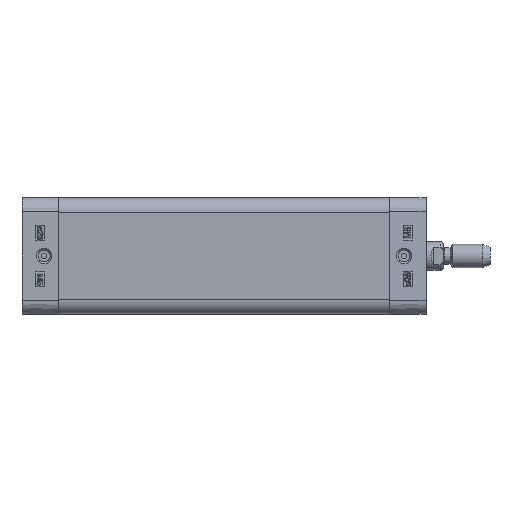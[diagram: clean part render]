
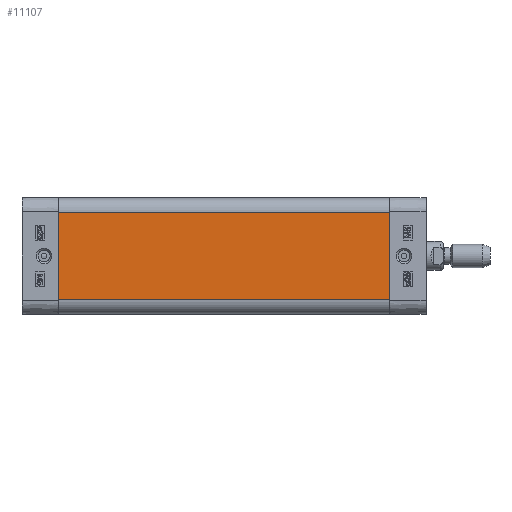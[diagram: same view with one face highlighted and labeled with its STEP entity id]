
A CAD part, left-side view. The second image highlights one B-rep face of the part: STEP entity #11107.
In plain terms, the highlighted planar face has unit normal (-1, 0, 0).
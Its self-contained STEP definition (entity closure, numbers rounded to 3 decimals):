
#8889=CARTESIAN_POINT('',(-20.,-114.0,15.0));
#8890=VERTEX_POINT('',#8889);
#8898=CARTESIAN_POINT('',(-20.,-114.0,-15.));
#8899=VERTEX_POINT('',#8898);
#8900=CARTESIAN_POINT('',(-20.,-114.0,-15.));
#8901=DIRECTION('',(0.0,0.0,1.0));
#8902=VECTOR('',#8901,30.);
#8903=LINE('',#8900,#8902);
#8904=EDGE_CURVE('',#8899,#8890,#8903,.T.);
#10035=CARTESIAN_POINT('',(-20.,0.0,15.0));
#10036=VERTEX_POINT('',#10035);
#10044=CARTESIAN_POINT('',(-20.,0.0,15.0));
#10045=DIRECTION('',(0.0,-1.0,0.0));
#10046=VECTOR('',#10045,114.0);
#10047=LINE('',#10044,#10046);
#10048=EDGE_CURVE('',#10036,#8890,#10047,.T.);
#11072=CARTESIAN_POINT('',(-20.,0.0,-15.));
#11073=VERTEX_POINT('',#11072);
#11074=CARTESIAN_POINT('',(-20.,0.0,-15.));
#11075=DIRECTION('',(0.0,-1.0,0.0));
#11076=VECTOR('',#11075,114.0);
#11077=LINE('',#11074,#11076);
#11078=EDGE_CURVE('',#11073,#8899,#11077,.T.);
#11091=CARTESIAN_POINT('',(-20.,0.0,-15.));
#11092=DIRECTION('',(-1.0,0.0,0.0));
#11093=DIRECTION('',(0.0,0.0,1.0));
#11094=AXIS2_PLACEMENT_3D('',#11091,#11092,#11093);
#11095=PLANE('',#11094);
#11096=ORIENTED_EDGE('',*,*,#8904,.T.);
#11097=ORIENTED_EDGE('',*,*,#10048,.F.);
#11098=CARTESIAN_POINT('',(-20.,0.0,-15.));
#11099=DIRECTION('',(0.0,0.0,1.0));
#11100=VECTOR('',#11099,30.);
#11101=LINE('',#11098,#11100);
#11102=EDGE_CURVE('',#11073,#10036,#11101,.T.);
#11103=ORIENTED_EDGE('',*,*,#11102,.F.);
#11104=ORIENTED_EDGE('',*,*,#11078,.T.);
#11105=EDGE_LOOP('',(#11096,#11097,#11103,#11104));
#11106=FACE_OUTER_BOUND('',#11105,.T.);
#11107=ADVANCED_FACE('',(#11106),#11095,.T.);
